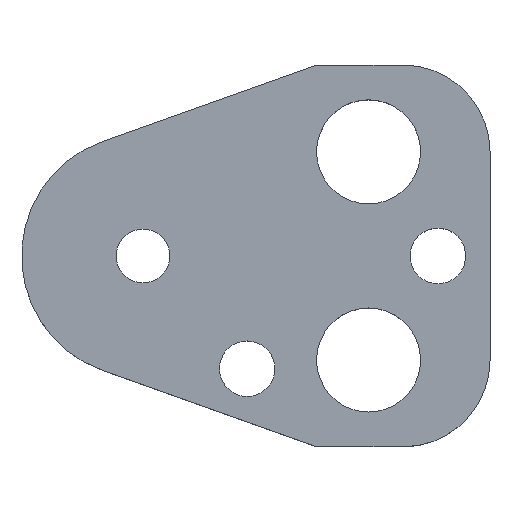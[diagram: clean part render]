
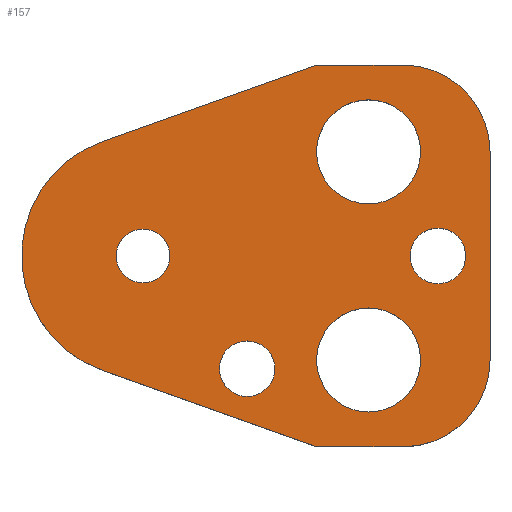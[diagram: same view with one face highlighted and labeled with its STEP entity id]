
A CAD part, top view. The second image highlights one B-rep face of the part: STEP entity #157.
In plain terms, the highlighted planar face has unit normal (0, 0, 1).
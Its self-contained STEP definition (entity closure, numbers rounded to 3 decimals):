
#103=FACE_BOUND('',#207,.T.);
#104=FACE_BOUND('',#208,.T.);
#105=FACE_BOUND('',#209,.T.);
#106=FACE_BOUND('',#210,.T.);
#107=FACE_BOUND('',#211,.T.);
#108=FACE_BOUND('',#212,.T.);
#122=CIRCLE('',#480,10.);
#124=CIRCLE('',#484,10.);
#127=CIRCLE('',#490,14.);
#138=CIRCLE('',#503,3.2);
#139=CIRCLE('',#504,3.2);
#140=CIRCLE('',#505,6.);
#141=CIRCLE('',#506,6.);
#142=CIRCLE('',#507,6.);
#143=CIRCLE('',#508,6.);
#144=CIRCLE('',#509,3.2);
#145=CIRCLE('',#510,3.2);
#146=CIRCLE('',#511,3.1);
#147=CIRCLE('',#512,3.1);
#157=ADVANCED_FACE('',(#103,#104,#105,#106,#107,#108),#174,.T.);
#174=PLANE('',#513);
#207=EDGE_LOOP('',(#273,#274,#275,#276,#277,#278,#279,#280));
#208=EDGE_LOOP('',(#281,#282));
#209=EDGE_LOOP('',(#283,#284));
#210=EDGE_LOOP('',(#285,#286));
#211=EDGE_LOOP('',(#287,#288));
#212=EDGE_LOOP('',(#289,#290));
#273=ORIENTED_EDGE('',*,*,#368,.T.);
#274=ORIENTED_EDGE('',*,*,#372,.T.);
#275=ORIENTED_EDGE('',*,*,#375,.T.);
#276=ORIENTED_EDGE('',*,*,#378,.T.);
#277=ORIENTED_EDGE('',*,*,#381,.T.);
#278=ORIENTED_EDGE('',*,*,#384,.T.);
#279=ORIENTED_EDGE('',*,*,#387,.T.);
#280=ORIENTED_EDGE('',*,*,#390,.T.);
#281=ORIENTED_EDGE('',*,*,#401,.T.);
#282=ORIENTED_EDGE('',*,*,#402,.T.);
#283=ORIENTED_EDGE('',*,*,#403,.T.);
#284=ORIENTED_EDGE('',*,*,#404,.T.);
#285=ORIENTED_EDGE('',*,*,#405,.T.);
#286=ORIENTED_EDGE('',*,*,#406,.T.);
#287=ORIENTED_EDGE('',*,*,#407,.T.);
#288=ORIENTED_EDGE('',*,*,#408,.T.);
#289=ORIENTED_EDGE('',*,*,#409,.T.);
#290=ORIENTED_EDGE('',*,*,#410,.T.);
#332=VERTEX_POINT('',#649);
#333=VERTEX_POINT('',#651);
#336=VERTEX_POINT('',#658);
#338=VERTEX_POINT('',#664);
#340=VERTEX_POINT('',#670);
#342=VERTEX_POINT('',#676);
#344=VERTEX_POINT('',#682);
#346=VERTEX_POINT('',#688);
#357=VERTEX_POINT('',#717);
#358=VERTEX_POINT('',#718);
#359=VERTEX_POINT('',#721);
#360=VERTEX_POINT('',#722);
#361=VERTEX_POINT('',#725);
#362=VERTEX_POINT('',#726);
#363=VERTEX_POINT('',#729);
#364=VERTEX_POINT('',#730);
#365=VERTEX_POINT('',#733);
#366=VERTEX_POINT('',#734);
#368=EDGE_CURVE('',#333,#332,#422,.T.);
#372=EDGE_CURVE('',#332,#336,#426,.T.);
#375=EDGE_CURVE('',#336,#338,#122,.T.);
#378=EDGE_CURVE('',#338,#340,#430,.T.);
#381=EDGE_CURVE('',#340,#342,#124,.T.);
#384=EDGE_CURVE('',#342,#344,#434,.T.);
#387=EDGE_CURVE('',#344,#346,#437,.T.);
#390=EDGE_CURVE('',#346,#333,#127,.T.);
#401=EDGE_CURVE('',#357,#358,#138,.T.);
#402=EDGE_CURVE('',#358,#357,#139,.T.);
#403=EDGE_CURVE('',#359,#360,#140,.T.);
#404=EDGE_CURVE('',#360,#359,#141,.T.);
#405=EDGE_CURVE('',#361,#362,#142,.T.);
#406=EDGE_CURVE('',#362,#361,#143,.T.);
#407=EDGE_CURVE('',#363,#364,#144,.T.);
#408=EDGE_CURVE('',#364,#363,#145,.T.);
#409=EDGE_CURVE('',#365,#366,#146,.T.);
#410=EDGE_CURVE('',#366,#365,#147,.T.);
#422=LINE('',#650,#450);
#426=LINE('',#659,#454);
#430=LINE('',#671,#458);
#434=LINE('',#683,#462);
#437=LINE('',#689,#465);
#450=VECTOR('',#527,1.);
#454=VECTOR('',#533,1.);
#458=VECTOR('',#545,1.);
#462=VECTOR('',#557,1.);
#465=VECTOR('',#562,1.);
#480=AXIS2_PLACEMENT_3D('',#665,#538,#539);
#484=AXIS2_PLACEMENT_3D('',#677,#550,#551);
#490=AXIS2_PLACEMENT_3D('',#693,#568,#569);
#503=AXIS2_PLACEMENT_3D('',#716,#594,#595);
#504=AXIS2_PLACEMENT_3D('',#719,#596,#597);
#505=AXIS2_PLACEMENT_3D('',#720,#598,#599);
#506=AXIS2_PLACEMENT_3D('',#723,#600,#601);
#507=AXIS2_PLACEMENT_3D('',#724,#602,#603);
#508=AXIS2_PLACEMENT_3D('',#727,#604,#605);
#509=AXIS2_PLACEMENT_3D('',#728,#606,#607);
#510=AXIS2_PLACEMENT_3D('',#731,#608,#609);
#511=AXIS2_PLACEMENT_3D('',#732,#610,#611);
#512=AXIS2_PLACEMENT_3D('',#735,#612,#613);
#513=AXIS2_PLACEMENT_3D('',#736,#614,#615);
#527=DIRECTION('',(0.942,-0.336,0.));
#533=DIRECTION('',(1.,0.,0.));
#538=DIRECTION('',(0.,0.,1.));
#539=DIRECTION('',(-0.707,0.707,0.));
#545=DIRECTION('',(0.,1.,0.));
#550=DIRECTION('',(0.,0.,1.));
#551=DIRECTION('',(-0.707,-0.707,0.));
#557=DIRECTION('',(-1.,0.,0.));
#562=DIRECTION('',(-0.942,-0.336,0.));
#568=DIRECTION('',(0.,0.,1.));
#569=DIRECTION('',(1.,0.,0.));
#594=DIRECTION('',(0.,0.,-1.));
#595=DIRECTION('',(-1.,0.,0.));
#596=DIRECTION('',(0.,0.,-1.));
#597=DIRECTION('',(1.,0.,0.));
#598=DIRECTION('',(0.,0.,-1.));
#599=DIRECTION('',(-1.,0.,0.));
#600=DIRECTION('',(0.,0.,-1.));
#601=DIRECTION('',(1.,0.,0.));
#602=DIRECTION('',(0.,0.,-1.));
#603=DIRECTION('',(-1.,0.,0.));
#604=DIRECTION('',(0.,0.,-1.));
#605=DIRECTION('',(1.,0.,0.));
#606=DIRECTION('',(0.,0.,-1.));
#607=DIRECTION('',(-1.,0.,0.));
#608=DIRECTION('',(0.,0.,-1.));
#609=DIRECTION('',(1.,0.,0.));
#610=DIRECTION('',(0.,0.,-1.));
#611=DIRECTION('',(-1.,0.,0.));
#612=DIRECTION('',(0.,0.,-1.));
#613=DIRECTION('',(1.,0.,0.));
#614=DIRECTION('',(0.,0.,1.));
#615=DIRECTION('',(0.942,-0.336,0.));
#649=CARTESIAN_POINT('',(20.,-22.,7.));
#650=CARTESIAN_POINT('',(20.,-22.,7.));
#651=CARTESIAN_POINT('',(-4.704,-13.186,7.));
#658=CARTESIAN_POINT('',(30.,-22.,7.));
#659=CARTESIAN_POINT('',(20.,-22.,7.));
#664=CARTESIAN_POINT('',(40.,-12.,7.));
#665=CARTESIAN_POINT('',(30.,-12.,7.));
#670=CARTESIAN_POINT('',(40.,12.,7.));
#671=CARTESIAN_POINT('',(40.,12.,7.));
#676=CARTESIAN_POINT('',(30.,22.,7.));
#677=CARTESIAN_POINT('',(30.,12.,7.));
#682=CARTESIAN_POINT('',(20.,22.,7.));
#683=CARTESIAN_POINT('',(20.,22.,7.));
#688=CARTESIAN_POINT('',(-4.704,13.186,7.));
#689=CARTESIAN_POINT('',(20.,22.,7.));
#693=CARTESIAN_POINT('',(0.,0.,7.));
#716=CARTESIAN_POINT('',(34.,0.,7.));
#717=CARTESIAN_POINT('',(34.,3.2,7.));
#718=CARTESIAN_POINT('',(34.,-3.2,7.));
#719=CARTESIAN_POINT('',(34.,0.,7.));
#720=CARTESIAN_POINT('',(26.,12.,7.));
#721=CARTESIAN_POINT('',(26.,18.,7.));
#722=CARTESIAN_POINT('',(26.,6.,7.));
#723=CARTESIAN_POINT('',(26.,12.,7.));
#724=CARTESIAN_POINT('',(26.,-12.,7.));
#725=CARTESIAN_POINT('',(26.,-6.,7.));
#726=CARTESIAN_POINT('',(26.,-18.,7.));
#727=CARTESIAN_POINT('',(26.,-12.,7.));
#728=CARTESIAN_POINT('',(12.,-13.,7.));
#729=CARTESIAN_POINT('',(12.,-9.8,7.));
#730=CARTESIAN_POINT('',(12.,-16.2,7.));
#731=CARTESIAN_POINT('',(12.,-13.,7.));
#732=CARTESIAN_POINT('',(0.,0.,7.));
#733=CARTESIAN_POINT('',(0.,3.1,7.));
#734=CARTESIAN_POINT('',(0.,-3.1,7.));
#735=CARTESIAN_POINT('',(0.,0.,7.));
#736=CARTESIAN_POINT('',(-4.704,-13.186,7.));
